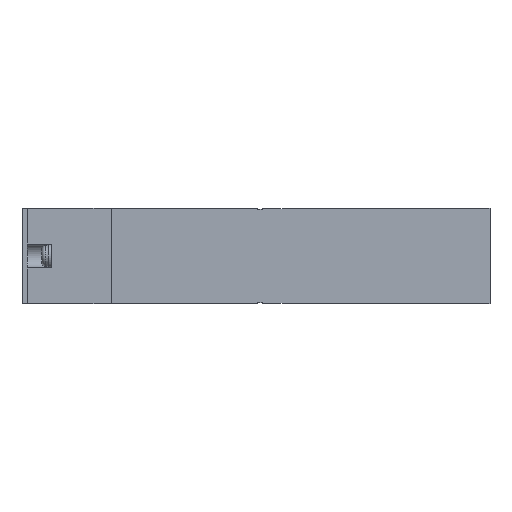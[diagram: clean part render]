
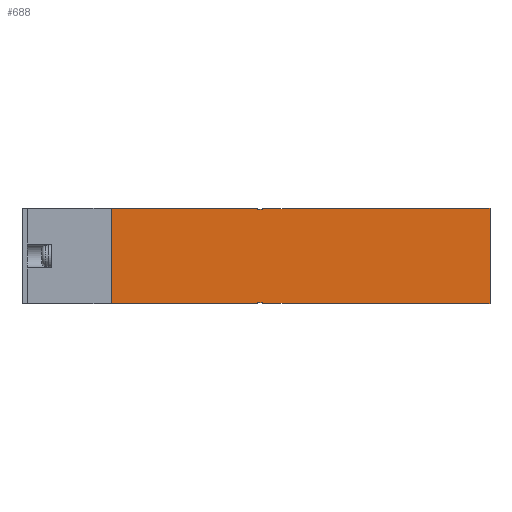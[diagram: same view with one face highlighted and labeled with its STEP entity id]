
A CAD part, front view. The second image highlights one B-rep face of the part: STEP entity #688.
In plain terms, the highlighted planar face has unit normal (0, -1, 0).
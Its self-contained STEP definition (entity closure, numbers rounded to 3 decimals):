
#688=ADVANCED_FACE('',(#1497),#1498,.F.);
#1497=FACE_OUTER_BOUND('',#2344,.T.);
#1498=PLANE('',#2345);
#2344=EDGE_LOOP('',(#5338,#5339,#5340,#5341,#5342,#5343,#5344,#5345,#5346,#5347,#5348,#5349,#5350,#5351,#5352,#5353,#5354,#5355,#5356,#5357,#5358,#5359,#5360,#5361));
#2345=AXIS2_PLACEMENT_3D('',#5362,#5363,#5364);
#5338=ORIENTED_EDGE('',*,*,#6436,.F.);
#5339=ORIENTED_EDGE('',*,*,#6476,.T.);
#5340=ORIENTED_EDGE('',*,*,#6478,.T.);
#5341=ORIENTED_EDGE('',*,*,#6460,.F.);
#5342=ORIENTED_EDGE('',*,*,#6503,.F.);
#5343=ORIENTED_EDGE('',*,*,#6525,.T.);
#5344=ORIENTED_EDGE('',*,*,#6514,.F.);
#5345=ORIENTED_EDGE('',*,*,#6306,.T.);
#5346=ORIENTED_EDGE('',*,*,#6283,.F.);
#5347=ORIENTED_EDGE('',*,*,#6526,.T.);
#5348=ORIENTED_EDGE('',*,*,#6523,.T.);
#5349=ORIENTED_EDGE('',*,*,#6492,.T.);
#5350=ORIENTED_EDGE('',*,*,#6309,.T.);
#5351=ORIENTED_EDGE('',*,*,#6409,.F.);
#5352=ORIENTED_EDGE('',*,*,#6375,.T.);
#5353=ORIENTED_EDGE('',*,*,#6463,.F.);
#5354=ORIENTED_EDGE('',*,*,#6245,.T.);
#5355=ORIENTED_EDGE('',*,*,#6473,.T.);
#5356=ORIENTED_EDGE('',*,*,#6324,.T.);
#5357=ORIENTED_EDGE('',*,*,#6507,.T.);
#5358=ORIENTED_EDGE('',*,*,#6407,.T.);
#5359=ORIENTED_EDGE('',*,*,#6232,.F.);
#5360=ORIENTED_EDGE('',*,*,#6355,.F.);
#5361=ORIENTED_EDGE('',*,*,#6256,.F.);
#5362=CARTESIAN_POINT('',(18.6,0.0,10.0));
#5363=DIRECTION('',(-0.0,1.0,0.0));
#5364=DIRECTION('',(1.0,0.0,0.0));
#6232=EDGE_CURVE('',#7680,#7675,#7682,.T.);
#6245=EDGE_CURVE('',#7701,#7706,#7708,.T.);
#6256=EDGE_CURVE('',#7727,#7729,#7730,.T.);
#6283=EDGE_CURVE('',#7778,#7780,#7781,.T.);
#6306=EDGE_CURVE('',#7822,#7780,#7823,.T.);
#6309=EDGE_CURVE('',#7828,#7826,#7829,.T.);
#6324=EDGE_CURVE('',#7855,#7856,#7857,.T.);
#6355=EDGE_CURVE('',#7729,#7680,#7908,.T.);
#6375=EDGE_CURVE('',#7944,#7942,#7945,.T.);
#6407=EDGE_CURVE('',#7987,#7675,#7992,.T.);
#6409=EDGE_CURVE('',#7944,#7826,#7995,.T.);
#6436=EDGE_CURVE('',#8040,#7727,#8042,.T.);
#6460=EDGE_CURVE('',#8078,#8079,#8080,.T.);
#6463=EDGE_CURVE('',#7701,#7942,#8084,.T.);
#6473=EDGE_CURVE('',#7706,#7855,#8098,.T.);
#6476=EDGE_CURVE('',#8040,#8101,#8103,.T.);
#6478=EDGE_CURVE('',#8101,#8079,#8105,.T.);
#6492=EDGE_CURVE('',#8121,#7828,#8122,.T.);
#6503=EDGE_CURVE('',#8136,#8078,#8138,.T.);
#6507=EDGE_CURVE('',#7856,#7987,#8143,.T.);
#6514=EDGE_CURVE('',#7822,#8150,#8152,.T.);
#6523=EDGE_CURVE('',#8162,#8121,#8163,.T.);
#6525=EDGE_CURVE('',#8136,#8150,#8165,.T.);
#6526=EDGE_CURVE('',#7778,#8162,#8166,.T.);
#7675=VERTEX_POINT('',#10009);
#7680=VERTEX_POINT('',#10016);
#7682=LINE('',#10019,#10020);
#7701=VERTEX_POINT('',#10047);
#7706=VERTEX_POINT('',#10054);
#7708=LINE('',#10057,#10058);
#7727=VERTEX_POINT('',#10085);
#7729=VERTEX_POINT('',#10088);
#7730=LINE('',#10089,#10090);
#7778=VERTEX_POINT('',#10162);
#7780=VERTEX_POINT('',#10165);
#7781=LINE('',#10166,#10167);
#7822=VERTEX_POINT('',#10246);
#7823=LINE('',#10247,#10248);
#7826=VERTEX_POINT('',#10252);
#7828=VERTEX_POINT('',#10255);
#7829=LINE('',#10256,#10257);
#7855=VERTEX_POINT('',#10297);
#7856=VERTEX_POINT('',#10298);
#7857=LINE('',#10299,#10300);
#7908=LINE('',#10380,#10381);
#7942=VERTEX_POINT('',#10431);
#7944=VERTEX_POINT('',#10434);
#7945=LINE('',#10435,#10436);
#7987=VERTEX_POINT('',#10501);
#7992=LINE('',#10509,#10510);
#7995=LINE('',#10513,#10514);
#8040=VERTEX_POINT('',#10583);
#8042=LINE('',#10586,#10587);
#8078=VERTEX_POINT('',#10671);
#8079=VERTEX_POINT('',#10672);
#8080=LINE('',#10673,#10674);
#8084=LINE('',#10680,#10681);
#8098=LINE('',#10702,#10703);
#8101=VERTEX_POINT('',#10707);
#8103=LINE('',#10710,#10711);
#8105=LINE('',#10714,#10715);
#8121=VERTEX_POINT('',#10741);
#8122=LINE('',#10742,#10743);
#8136=VERTEX_POINT('',#10763);
#8138=LINE('',#10766,#10767);
#8143=LINE('',#10775,#10776);
#8150=VERTEX_POINT('',#10788);
#8152=LINE('',#10791,#10792);
#8162=VERTEX_POINT('',#10809);
#8163=LINE('',#10810,#10811);
#8165=LINE('',#10814,#10815);
#8166=LINE('',#10816,#10817);
#10009=CARTESIAN_POINT('',(97.6,0.0,-10.0));
#10016=CARTESIAN_POINT('',(97.6,0.0,10.0));
#10019=CARTESIAN_POINT('',(97.6,0.0,10.0));
#10020=VECTOR('',#11742,1.0);
#10047=CARTESIAN_POINT('',(49.1,0.0,-9.8));
#10054=CARTESIAN_POINT('',(50.1,0.0,-9.8));
#10057=CARTESIAN_POINT('',(18.6,0.0,-9.8));
#10058=VECTOR('',#11757,1.0);
#10085=CARTESIAN_POINT('',(55.1,0.0,9.9));
#10088=CARTESIAN_POINT('',(55.1,0.0,10.0));
#10089=CARTESIAN_POINT('',(55.1,0.0,9.9));
#10090=VECTOR('',#11770,1.0);
#10162=CARTESIAN_POINT('',(18.6,0.0,9.9));
#10165=CARTESIAN_POINT('',(35.1,0.0,9.9));
#10166=CARTESIAN_POINT('',(18.6,0.0,9.9));
#10167=VECTOR('',#11799,1.0);
#10246=CARTESIAN_POINT('',(35.1,0.0,10.0));
#10247=CARTESIAN_POINT('',(35.1,0.0,10.1));
#10248=VECTOR('',#11833,1.0);
#10252=CARTESIAN_POINT('',(44.1,0.0,-10.0));
#10255=CARTESIAN_POINT('',(35.1,0.0,-10.0));
#10256=CARTESIAN_POINT('',(18.6,0.0,-10.0));
#10257=VECTOR('',#11836,1.0);
#10297=CARTESIAN_POINT('',(50.1,0.0,-9.9));
#10298=CARTESIAN_POINT('',(55.1,0.0,-9.9));
#10299=CARTESIAN_POINT('',(44.1,0.0,-9.9));
#10300=VECTOR('',#11851,1.0);
#10380=CARTESIAN_POINT('',(18.6,0.0,10.0));
#10381=VECTOR('',#11884,1.0);
#10431=CARTESIAN_POINT('',(49.1,0.0,-9.9));
#10434=CARTESIAN_POINT('',(44.1,0.0,-9.9));
#10435=CARTESIAN_POINT('',(44.1,0.0,-9.9));
#10436=VECTOR('',#11908,1.0);
#10501=CARTESIAN_POINT('',(55.1,0.0,-10.0));
#10509=CARTESIAN_POINT('',(18.6,0.0,-10.0));
#10510=VECTOR('',#11950,1.0);
#10513=CARTESIAN_POINT('',(44.1,0.0,-9.9));
#10514=VECTOR('',#11954,1.0);
#10583=CARTESIAN_POINT('',(50.1,0.0,9.9));
#10586=CARTESIAN_POINT('',(44.1,0.0,9.9));
#10587=VECTOR('',#11983,1.0);
#10671=CARTESIAN_POINT('',(49.1,0.0,9.9));
#10672=CARTESIAN_POINT('',(49.1,0.0,9.8));
#10673=CARTESIAN_POINT('',(49.1,0.0,10.0));
#10674=VECTOR('',#12008,1.0);
#10680=CARTESIAN_POINT('',(49.1,0.0,10.0));
#10681=VECTOR('',#12011,1.0);
#10702=CARTESIAN_POINT('',(50.1,0.0,10.0));
#10703=VECTOR('',#12025,1.0);
#10707=CARTESIAN_POINT('',(50.1,0.0,9.8));
#10710=CARTESIAN_POINT('',(50.1,0.0,10.0));
#10711=VECTOR('',#12028,1.0);
#10714=CARTESIAN_POINT('',(18.6,0.0,9.8));
#10715=VECTOR('',#12030,1.0);
#10741=CARTESIAN_POINT('',(35.1,0.0,-9.9));
#10742=CARTESIAN_POINT('',(35.1,0.0,-9.9));
#10743=VECTOR('',#12047,1.0);
#10763=CARTESIAN_POINT('',(44.1,0.0,9.9));
#10766=CARTESIAN_POINT('',(44.1,0.0,9.9));
#10767=VECTOR('',#12064,1.0);
#10775=CARTESIAN_POINT('',(55.1,0.0,-9.9));
#10776=VECTOR('',#12068,1.0);
#10788=CARTESIAN_POINT('',(44.1,0.0,10.0));
#10791=CARTESIAN_POINT('',(18.6,0.0,10.0));
#10792=VECTOR('',#12075,1.0);
#10809=CARTESIAN_POINT('',(18.6,0.0,-9.9));
#10810=CARTESIAN_POINT('',(18.6,0.0,-9.9));
#10811=VECTOR('',#12086,1.0);
#10814=CARTESIAN_POINT('',(44.1,0.0,9.9));
#10815=VECTOR('',#12088,1.0);
#10816=CARTESIAN_POINT('',(18.6,0.0,10.0));
#10817=VECTOR('',#12089,1.0);
#11742=DIRECTION('',(0.0,0.0,-1.0));
#11757=DIRECTION('',(1.0,0.0,0.0));
#11770=DIRECTION('',(0.0,0.0,1.0));
#11799=DIRECTION('',(1.0,0.0,0.0));
#11833=DIRECTION('',(0.0,0.0,-1.0));
#11836=DIRECTION('',(1.0,0.0,0.0));
#11851=DIRECTION('',(1.0,0.0,0.0));
#11884=DIRECTION('',(1.0,0.0,0.0));
#11908=DIRECTION('',(1.0,0.0,0.0));
#11950=DIRECTION('',(1.0,0.0,0.0));
#11954=DIRECTION('',(0.0,0.0,-1.0));
#11983=DIRECTION('',(1.0,0.0,0.0));
#12008=DIRECTION('',(0.0,0.0,-1.0));
#12011=DIRECTION('',(0.0,0.0,-1.0));
#12025=DIRECTION('',(0.0,0.0,-1.0));
#12028=DIRECTION('',(0.0,0.0,-1.0));
#12030=DIRECTION('',(-1.0,0.0,0.0));
#12047=DIRECTION('',(0.0,0.0,-1.0));
#12064=DIRECTION('',(1.0,0.0,0.0));
#12068=DIRECTION('',(0.0,0.0,-1.0));
#12075=DIRECTION('',(1.0,0.0,0.0));
#12086=DIRECTION('',(1.0,0.0,0.0));
#12088=DIRECTION('',(0.0,0.0,1.0));
#12089=DIRECTION('',(0.0,0.0,-1.0));
